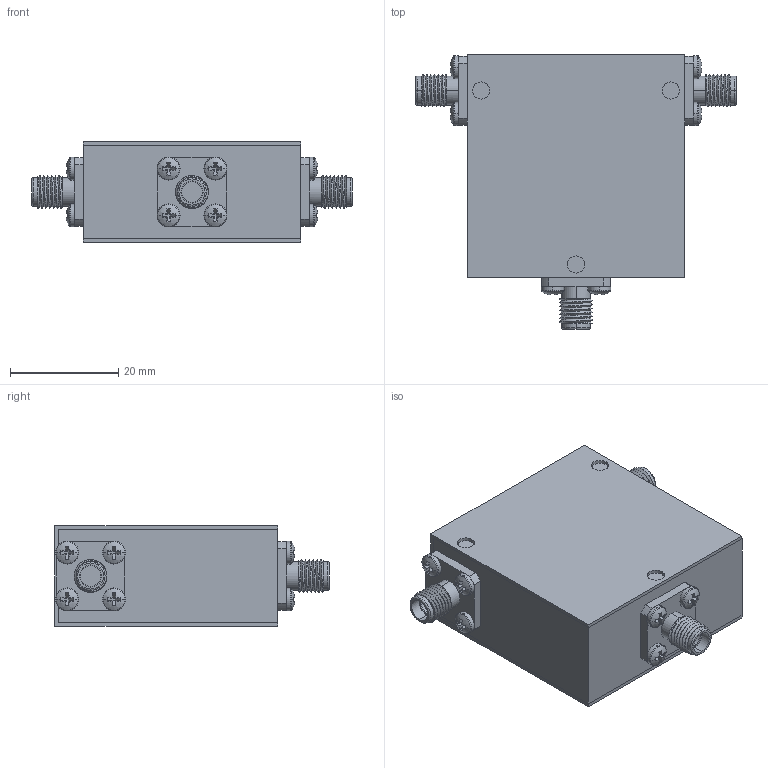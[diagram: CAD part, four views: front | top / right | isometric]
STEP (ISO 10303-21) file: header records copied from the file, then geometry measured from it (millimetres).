
FILE_DESCRIPTION (( 'STEP AP214' ), '1' );
FILE_NAME ('Package 7 Circ FFF.step', '2021-12-01T21:01:38', ( '' ), ( '' ), 'SwSTEP 2.0', 'SolidWorks 2016', '' );
FILE_SCHEMA (( 'AUTOMOTIVE_DESIGN' ));
Length unit declared in the file: inch
Products named in the file (5): Package 7 Circ FFF; Package Size 7; Package 7; Delta SMA-Female 0.500 flange Threaded; pan cross head_ai_CR-PHMS 0.086-56x0.125x0.125-N
Assembly tree (17 placements, depth 2):
  Package 7 Circ FFF
    Package Size 7
    Package 7
    Delta SMA-Female 0.500 flange Threaded  x3
    pan cross head_ai_CR-PHMS 0.086-56x0.125x0.125-N  x12
Bounding box: 59.18 x 50.67 x 18.54 mm (x, y, z)
Volume: 31797.7 mm3; surface area: 17018 mm2
Topology: 17 solids, 17 shells, 421 faces, 957 edges, 591 vertices
Faces by surface type: plane 232, cylinder 126, torus 30, sphere 24, bspline 9
Entity records: 3729 total; most frequent: CARTESIAN_POINT 1205, DIRECTION 527, ORIENTED_EDGE 434, EDGE_CURVE 217, AXIS2_PLACEMENT_3D 211, VERTEX_POINT 139, EDGE_LOOP 116, LINE 105
